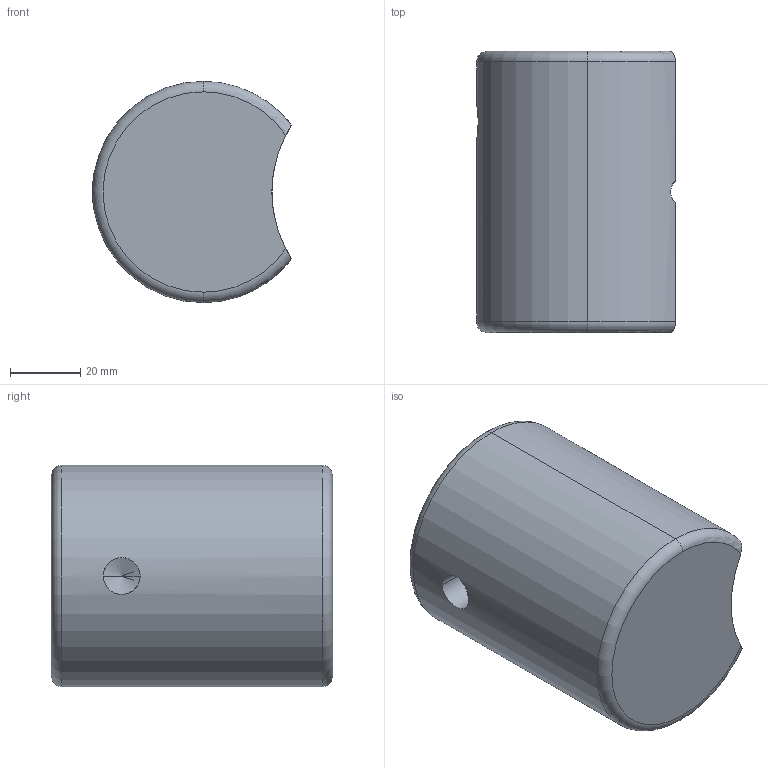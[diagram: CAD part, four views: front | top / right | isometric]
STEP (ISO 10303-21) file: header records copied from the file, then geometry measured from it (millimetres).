
FILE_DESCRIPTION(('CATIA V5 STEP Exchange'),'2;1');
FILE_NAME('C:\Users\Utente\Desktop\3D files A518\A518-4.stp','2020-04-12T13:04:02+00:00',('none'),('none'),'CATIA Version 5 Release 20 GA (IN-10)','CATIA V5 STEP AP203','none');
FILE_SCHEMA(('CONFIG_CONTROL_DESIGN'));
Length unit declared in the file: millimetre
Products named in the file (1): A518-4
Bounding box: 56.61 x 80 x 63 mm (x, y, z)
Volume: 222412.4 mm3; surface area: 21469.6 mm2
Topology: 1 solids, 1 shells, 19 faces, 56 edges, 38 vertices
Faces by surface type: torus 8, cylinder 7, cone 2, plane 2
Entity records: 755 total; most frequent: CARTESIAN_POINT 263, ORIENTED_EDGE 108, DIRECTION 65, EDGE_CURVE 54, AXIS2_PLACEMENT_3D 40, VERTEX_POINT 38, CIRCLE 23, B_SPLINE_CURVE_WITH_KNOTS 21
